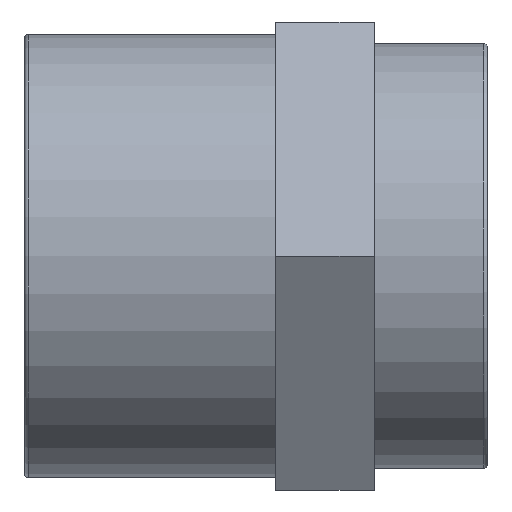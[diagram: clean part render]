
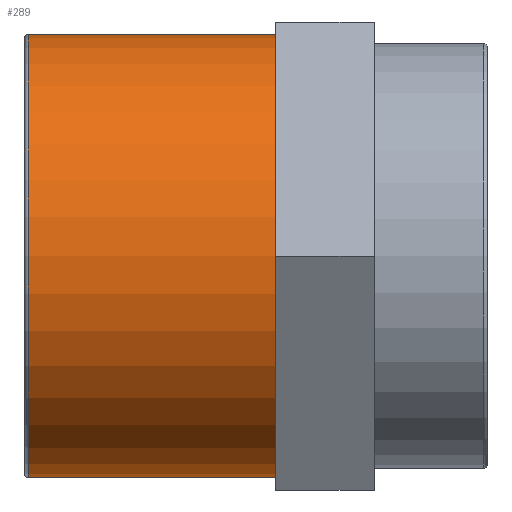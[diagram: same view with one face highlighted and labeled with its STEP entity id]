
A CAD part, top view. The second image highlights one B-rep face of the part: STEP entity #289.
In plain terms, the highlighted cylindrical face has radius 45 mm (diameter 90 mm), a full revolution.
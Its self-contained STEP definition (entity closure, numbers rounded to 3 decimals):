
#54=CYLINDRICAL_SURFACE('',#323,45.);
#77=FACE_BOUND('',#123,.T.);
#92=FACE_OUTER_BOUND('',#122,.T.);
#122=EDGE_LOOP('',(#230));
#123=EDGE_LOOP('',(#231));
#150=CIRCLE('',#322,45.);
#151=CIRCLE('',#324,45.);
#164=VERTEX_POINT('',#458);
#165=VERTEX_POINT('',#461);
#190=EDGE_CURVE('',#164,#164,#150,.T.);
#191=EDGE_CURVE('',#165,#165,#151,.T.);
#230=ORIENTED_EDGE('',*,*,#191,.T.);
#231=ORIENTED_EDGE('',*,*,#190,.F.);
#289=ADVANCED_FACE('',(#92,#77),#54,.T.);
#322=AXIS2_PLACEMENT_3D('',#459,#378,#379);
#323=AXIS2_PLACEMENT_3D('',#460,#380,#381);
#324=AXIS2_PLACEMENT_3D('',#462,#382,#383);
#378=DIRECTION('center_axis',(-1.,0.,0.));
#379=DIRECTION('ref_axis',(0.,1.,0.));
#380=DIRECTION('center_axis',(-1.,0.,0.));
#381=DIRECTION('ref_axis',(0.,-1.,0.));
#382=DIRECTION('center_axis',(-1.,0.,0.));
#383=DIRECTION('ref_axis',(0.,0.,1.));
#458=CARTESIAN_POINT('',(-46.25,-45.,0.));
#459=CARTESIAN_POINT('Origin',(-46.25,0.,0.));
#460=CARTESIAN_POINT('Origin',(-21.5,0.,0.));
#461=CARTESIAN_POINT('',(4.,-45.,0.));
#462=CARTESIAN_POINT('Origin',(4.,0.,0.));
